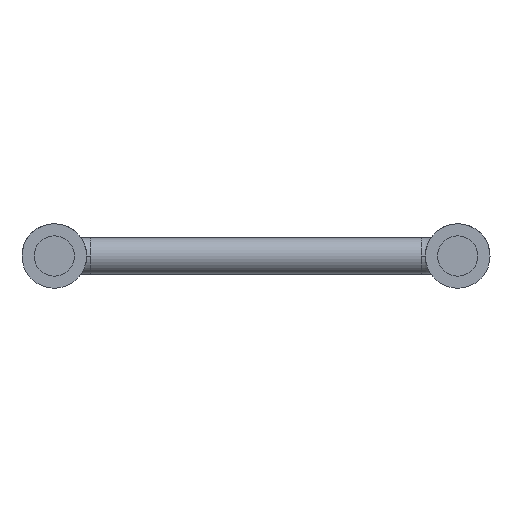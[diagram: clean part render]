
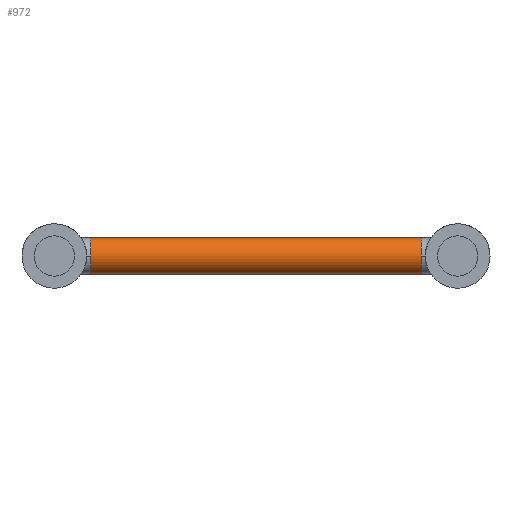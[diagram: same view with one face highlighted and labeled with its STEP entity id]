
A CAD part, front view. The second image highlights one B-rep face of the part: STEP entity #972.
In plain terms, the highlighted cylindrical face has radius 4.5 mm (diameter 9 mm), a partial arc.
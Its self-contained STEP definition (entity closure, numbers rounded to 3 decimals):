
#40 = VERTEX_POINT ( 'NONE', #76 ) ;
#76 = CARTESIAN_POINT ( 'NONE',  ( 9., 28.5, 0. ) ) ;
#89 = ORIENTED_EDGE ( 'NONE', *, *, #1787, .F. ) ;
#102 = CARTESIAN_POINT ( 'NONE',  ( 9., 33., 0. ) ) ;
#151 = FACE_OUTER_BOUND ( 'NONE', #588, .T. ) ;
#176 = DIRECTION ( 'NONE',  ( 1., 0., 0. ) ) ;
#257 = CARTESIAN_POINT ( 'NONE',  ( 9., 33., 4.5 ) ) ;
#275 = DIRECTION ( 'NONE',  ( 0., 0., 1. ) ) ;
#324 = CIRCLE ( 'NONE', #1625, 4.5 ) ;
#478 = VERTEX_POINT ( 'NONE', #779 ) ;
#496 = DIRECTION ( 'NONE',  ( 0., 0., -1. ) ) ;
#528 = ORIENTED_EDGE ( 'NONE', *, *, #1978, .F. ) ;
#566 = DIRECTION ( 'NONE',  ( 0., 0., 1. ) ) ;
#588 = EDGE_LOOP ( 'NONE', ( #528, #2107, #1987, #1484, #89, #1069 ) ) ;
#596 = CIRCLE ( 'NONE', #1640, 4.5 ) ;
#677 = VERTEX_POINT ( 'NONE', #1365 ) ;
#779 = CARTESIAN_POINT ( 'NONE',  ( 91., 33., -4.5 ) ) ;
#824 = CYLINDRICAL_SURFACE ( 'NONE', #1597, 4.5 ) ;
#832 = DIRECTION ( 'NONE',  ( 1., 0., 0. ) ) ;
#878 = DIRECTION ( 'NONE',  ( 1., 0., 0. ) ) ;
#970 = VERTEX_POINT ( 'NONE', #1949 ) ;
#972 = ADVANCED_FACE ( 'NONE', ( #151 ), #824, .T. ) ;
#993 = CARTESIAN_POINT ( 'NONE',  ( 9., 33., -4.5 ) ) ;
#1069 = ORIENTED_EDGE ( 'NONE', *, *, #1149, .F. ) ;
#1149 = EDGE_CURVE ( 'NONE', #1977, #970, #596, .T. ) ;
#1205 = EDGE_CURVE ( 'NONE', #677, #40, #1601, .T. ) ;
#1210 = CIRCLE ( 'NONE', #1741, 4.5 ) ;
#1211 = LINE ( 'NONE', #2022, #1642 ) ;
#1231 = CARTESIAN_POINT ( 'NONE',  ( 91., 33., 4.5 ) ) ;
#1365 = CARTESIAN_POINT ( 'NONE',  ( 9., 33., 4.5 ) ) ;
#1383 = VERTEX_POINT ( 'NONE', #993 ) ;
#1415 = LINE ( 'NONE', #257, #1679 ) ;
#1484 = ORIENTED_EDGE ( 'NONE', *, *, #1937, .T. ) ;
#1519 = DIRECTION ( 'NONE',  ( 0., 0., 1. ) ) ;
#1597 = AXIS2_PLACEMENT_3D ( 'NONE', #1675, #176, #496 ) ;
#1601 = CIRCLE ( 'NONE', #1883, 4.5 ) ;
#1625 = AXIS2_PLACEMENT_3D ( 'NONE', #1804, #832, #1959 ) ;
#1640 = AXIS2_PLACEMENT_3D ( 'NONE', #1697, #2039, #566 ) ;
#1642 = VECTOR ( 'NONE', #1714, 1000. ) ;
#1675 = CARTESIAN_POINT ( 'NONE',  ( 9., 33., 0. ) ) ;
#1679 = VECTOR ( 'NONE', #1752, 1000. ) ;
#1697 = CARTESIAN_POINT ( 'NONE',  ( 91., 33., 0. ) ) ;
#1714 = DIRECTION ( 'NONE',  ( 1., 0., 0. ) ) ;
#1732 = CARTESIAN_POINT ( 'NONE',  ( 9., 33., 0. ) ) ;
#1741 = AXIS2_PLACEMENT_3D ( 'NONE', #102, #1901, #275 ) ;
#1752 = DIRECTION ( 'NONE',  ( 1., 0., 0. ) ) ;
#1787 = EDGE_CURVE ( 'NONE', #970, #478, #324, .T. ) ;
#1804 = CARTESIAN_POINT ( 'NONE',  ( 91., 33., 0. ) ) ;
#1883 = AXIS2_PLACEMENT_3D ( 'NONE', #1732, #878, #1519 ) ;
#1901 = DIRECTION ( 'NONE',  ( 1., 0., 0. ) ) ;
#1937 = EDGE_CURVE ( 'NONE', #1383, #478, #1211, .T. ) ;
#1949 = CARTESIAN_POINT ( 'NONE',  ( 91., 28.5, 0. ) ) ;
#1959 = DIRECTION ( 'NONE',  ( 0., 0., 1. ) ) ;
#1977 = VERTEX_POINT ( 'NONE', #1231 ) ;
#1978 = EDGE_CURVE ( 'NONE', #677, #1977, #1415, .T. ) ;
#1987 = ORIENTED_EDGE ( 'NONE', *, *, #2020, .T. ) ;
#2020 = EDGE_CURVE ( 'NONE', #40, #1383, #1210, .T. ) ;
#2022 = CARTESIAN_POINT ( 'NONE',  ( 9., 33., -4.5 ) ) ;
#2039 = DIRECTION ( 'NONE',  ( 1., 0., 0. ) ) ;
#2107 = ORIENTED_EDGE ( 'NONE', *, *, #1205, .T. ) ;
